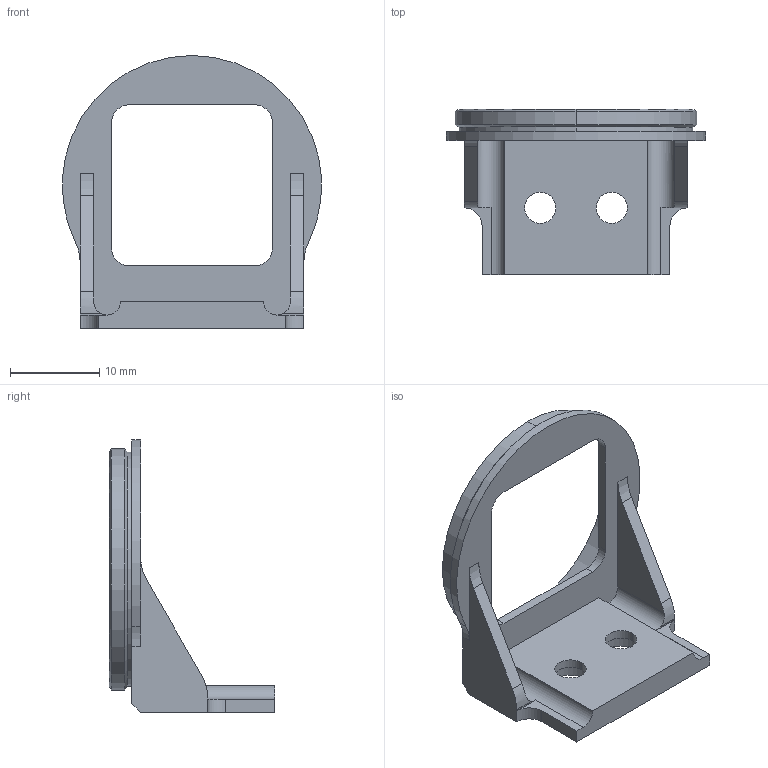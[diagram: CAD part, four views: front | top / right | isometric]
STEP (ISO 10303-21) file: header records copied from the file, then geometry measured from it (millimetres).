
FILE_DESCRIPTION (( 'STEP AP214' ), '1' );
FILE_NAME ('BK?VCOBS1513-TCH110_Drawing_T1302A-A00100.SLDPRT.STEP', '2025-04-25T07:27:51', ( '' ), ( '' ), 'SwSTEP 2.0', 'SolidWorks 2018', '' );
FILE_SCHEMA (( 'AUTOMOTIVE_DESIGN' ));
Length unit declared in the file: millimetre
Products named in the file (1): BK?VCOBS1513-TCH110_Drawing_T1302A-A00100.SLDPRT
Bounding box: 28.96 x 18.5 x 30.5 mm (x, y, z)
Surface area: 2497.6 mm2 (no closed solid volume)
Topology: 0 solids, 1 shells, 59 faces, 151 edges, 98 vertices
Faces by surface type: cylinder 29, plane 26, cone 4
Entity records: 2501 total; most frequent: DIRECTION 331, CARTESIAN_POINT 327, ORIENTED_EDGE 302, EDGE_CURVE 151, AXIS2_PLACEMENT_3D 122, VERTEX_POINT 98, VECTOR 87, LINE 87
